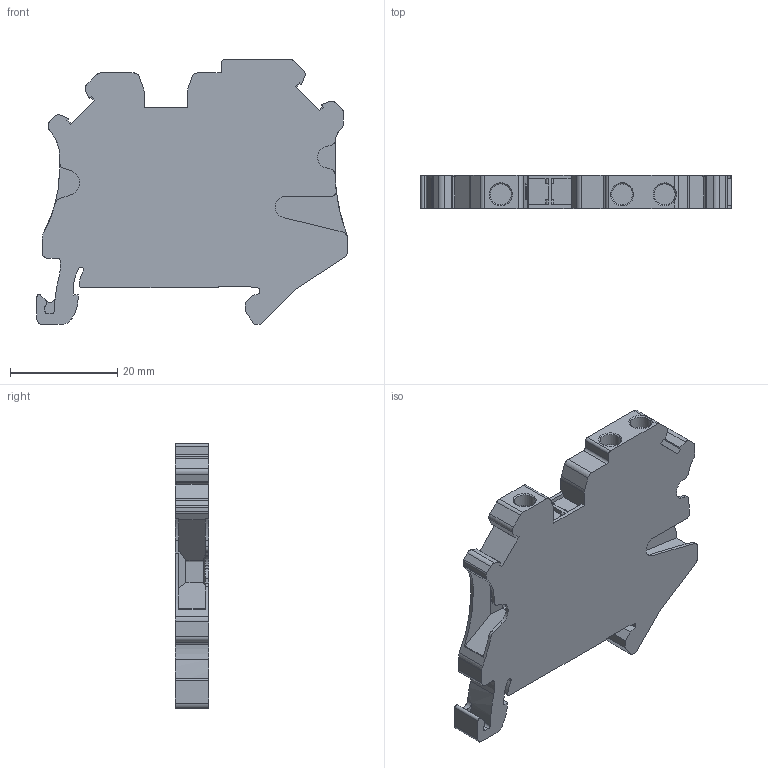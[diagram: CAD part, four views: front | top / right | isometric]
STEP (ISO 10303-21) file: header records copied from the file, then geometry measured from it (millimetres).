
FILE_DESCRIPTION( ('This file contains a STEP AP42 implementation' ,'as created by ZW3D STEP Interface translator.') ,'2;1' );
FILE_NAME( 'RUT4-TWIN .stp' ,'23 729.1626 2', (''), ('ZWCAD Software Co.'), 'Version 1.0', 'ZW3D to STEP translator', '' );
FILE_SCHEMA(('AUTOMOTIVE_DESIGN { 1 0 10303 214 1 1 1 1 }'));
Length unit declared in the file: millimetre
Products named in the file (2): 0; RUT4-TWIN waike
Bounding box: 57.8 x 6.15 x 49.35 mm (x, y, z)
Volume: 11423.4 mm3; surface area: 6325.3 mm2
Topology: 1 solids, 1 shells, 201 faces, 580 edges, 384 vertices
Faces by surface type: plane 133, cylinder 63, cone 3, bspline 2
Full cylindrical faces by diameter (mm): 3.9 x3
Entity records: 6891 total; most frequent: CARTESIAN_POINT 1240, ORIENTED_EDGE 1160, DIRECTION 1120, EDGE_CURVE 580, VECTOR 432, LINE 432, VERTEX_POINT 384, AXIS2_PLACEMENT_3D 344
